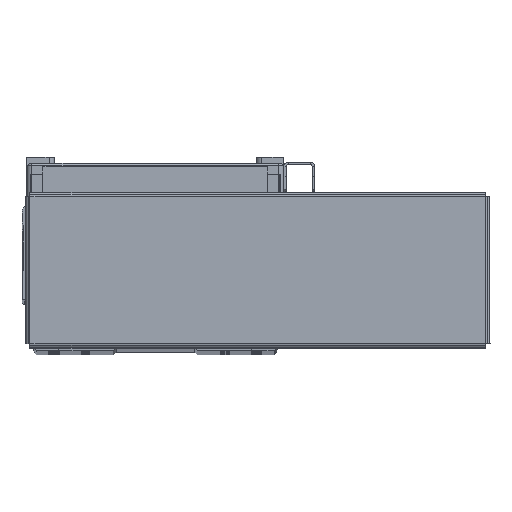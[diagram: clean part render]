
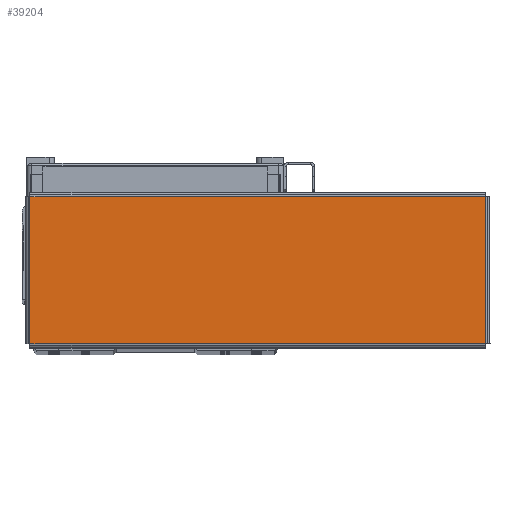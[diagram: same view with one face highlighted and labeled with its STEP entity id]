
A CAD part, top view. The second image highlights one B-rep face of the part: STEP entity #39204.
In plain terms, the highlighted planar face has unit normal (0, 0, 1) as drawn and (0, -1, 0) by its records, which use the part's own axes.
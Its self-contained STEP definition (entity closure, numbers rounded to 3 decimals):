
#5837 = PLANE ( 'NONE',  #29527 ) ;
#5853 = CARTESIAN_POINT ( 'NONE',  ( 0., -1., 0. ) ) ;
#5854 = DIRECTION ( 'NONE',  ( 0., 1., 0. ) ) ;
#5859 = DIRECTION ( 'NONE',  ( 0., 0., 1. ) ) ;
#9380 = FACE_OUTER_BOUND ( 'NONE', #12009, .T. ) ;
#12009 = EDGE_LOOP ( 'NONE', ( #19257, #19247, #19250, #19285 ) ) ;
#19247 = ORIENTED_EDGE ( 'NONE', *, *, #50107, .T. ) ;
#19250 = ORIENTED_EDGE ( 'NONE', *, *, #50109, .T. ) ;
#19257 = ORIENTED_EDGE ( 'NONE', *, *, #50119, .T. ) ;
#19285 = ORIENTED_EDGE ( 'NONE', *, *, #50137, .T. ) ;
#29527 = AXIS2_PLACEMENT_3D ( 'NONE', #5853, #5854, #5859 ) ;
#33149 = CARTESIAN_POINT ( 'NONE',  ( 92.263, -1., -29.793 ) ) ;
#33162 = CARTESIAN_POINT ( 'NONE',  ( 92.293, -1., 29.763 ) ) ;
#33172 = DIRECTION ( 'NONE',  ( 0., 0., 1. ) ) ;
#33173 = DIRECTION ( 'NONE',  ( -1., 0., 0. ) ) ;
#33181 = DIRECTION ( 'NONE',  ( 1., 0., 0. ) ) ;
#33216 = CARTESIAN_POINT ( 'NONE',  ( -92.293, -1., -29.763 ) ) ;
#33257 = DIRECTION ( 'NONE',  ( 0., 0., -1. ) ) ;
#33259 = CARTESIAN_POINT ( 'NONE',  ( -92.263, -1., 29.793 ) ) ;
#33366 = CARTESIAN_POINT ( 'NONE',  ( 92.263, -1., -29.763 ) ) ;
#33395 = CARTESIAN_POINT ( 'NONE',  ( -92.263, -1., -29.763 ) ) ;
#33400 = CARTESIAN_POINT ( 'NONE',  ( 92.263, -1., 29.763 ) ) ;
#33470 = CARTESIAN_POINT ( 'NONE',  ( -92.263, -1., 29.763 ) ) ;
#39204 = ADVANCED_FACE ( 'NONE', ( #9380 ), #5837, .F. ) ;
#45651 = VECTOR ( 'NONE', #33172, 1000. ) ;
#45661 = LINE ( 'NONE', #33216, #45664 ) ;
#45664 = VECTOR ( 'NONE', #33181, 1000. ) ;
#45673 = LINE ( 'NONE', #33149, #45651 ) ;
#45808 = VECTOR ( 'NONE', #33173, 1000. ) ;
#45837 = LINE ( 'NONE', #33162, #45808 ) ;
#45931 = VECTOR ( 'NONE', #33257, 1000. ) ;
#45938 = LINE ( 'NONE', #33259, #45931 ) ;
#50107 = EDGE_CURVE ( 'NONE', #52039, #52040, #45673, .T. ) ;
#50109 = EDGE_CURVE ( 'NONE', #52040, #52141, #45837, .T. ) ;
#50119 = EDGE_CURVE ( 'NONE', #52075, #52039, #45661, .T. ) ;
#50137 = EDGE_CURVE ( 'NONE', #52141, #52075, #45938, .T. ) ;
#52039 = VERTEX_POINT ( 'NONE', #33366 ) ;
#52040 = VERTEX_POINT ( 'NONE', #33400 ) ;
#52075 = VERTEX_POINT ( 'NONE', #33395 ) ;
#52141 = VERTEX_POINT ( 'NONE', #33470 ) ;
